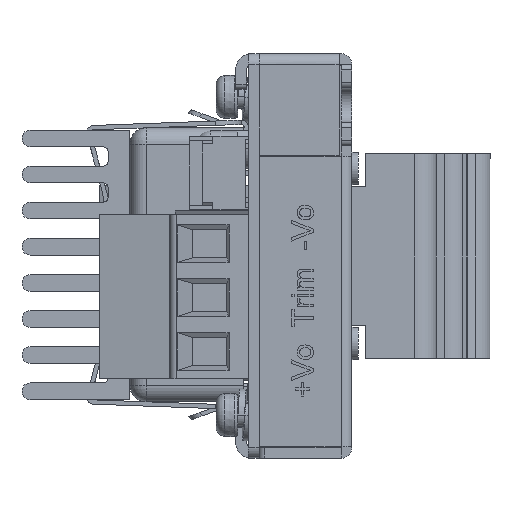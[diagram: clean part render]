
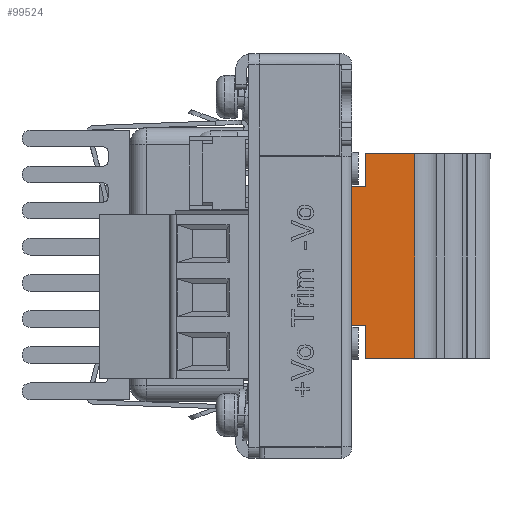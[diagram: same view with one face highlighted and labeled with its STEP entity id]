
A CAD part, left-side view. The second image highlights one B-rep face of the part: STEP entity #99524.
In plain terms, the highlighted planar face has unit normal (-1, 0, 0).
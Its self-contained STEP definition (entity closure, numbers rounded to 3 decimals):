
#5629 = DIRECTION ( 'NONE',  ( 0., 0., -1. ) ) ;
#6087 = VERTEX_POINT ( 'NONE', #14412 ) ;
#7372 = ORIENTED_EDGE ( 'NONE', *, *, #27137, .T. ) ;
#9182 = CARTESIAN_POINT ( 'NONE',  ( -25.603, -8.155, 107. ) ) ;
#10299 = CARTESIAN_POINT ( 'NONE',  ( -25.603, -6.855, 91.05 ) ) ;
#13301 = VECTOR ( 'NONE', #80635, 1000. ) ;
#14412 = CARTESIAN_POINT ( 'NONE',  ( -25.603, -8.155, 107. ) ) ;
#18478 = ORIENTED_EDGE ( 'NONE', *, *, #69444, .F. ) ;
#19432 = EDGE_CURVE ( 'NONE', #23772, #49206, #19797, .T. ) ;
#19797 = LINE ( 'NONE', #43949, #33618 ) ;
#23601 = DIRECTION ( 'NONE',  ( 0., -1., 0. ) ) ;
#23772 = VERTEX_POINT ( 'NONE', #35040 ) ;
#26375 = CARTESIAN_POINT ( 'NONE',  ( -25.603, -6.855, 103.95 ) ) ;
#27137 = EDGE_CURVE ( 'NONE', #71283, #23772, #46726, .T. ) ;
#28650 = LINE ( 'NONE', #31063, #82763 ) ;
#29485 = EDGE_CURVE ( 'NONE', #6087, #37944, #101714, .T. ) ;
#29839 = ORIENTED_EDGE ( 'NONE', *, *, #99896, .T. ) ;
#30795 = CARTESIAN_POINT ( 'NONE',  ( -25.603, -6.855, 103.95 ) ) ;
#31063 = CARTESIAN_POINT ( 'NONE',  ( -25.603, -6.855, 91.05 ) ) ;
#31787 = EDGE_LOOP ( 'NONE', ( #51011, #61964, #101478, #32740, #46818, #18478, #29839, #7372 ) ) ;
#32068 = DIRECTION ( 'NONE',  ( 0., -1., 0. ) ) ;
#32073 = CARTESIAN_POINT ( 'NONE',  ( -25.603, -12.655, 107. ) ) ;
#32740 = ORIENTED_EDGE ( 'NONE', *, *, #29485, .T. ) ;
#33618 = VECTOR ( 'NONE', #43432, 1000. ) ;
#35040 = CARTESIAN_POINT ( 'NONE',  ( -25.603, -8.155, 88. ) ) ;
#35111 = LINE ( 'NONE', #41785, #60257 ) ;
#35614 = EDGE_CURVE ( 'NONE', #6087, #72560, #61734, .T. ) ;
#37944 = VERTEX_POINT ( 'NONE', #57094 ) ;
#38795 = VERTEX_POINT ( 'NONE', #26375 ) ;
#41785 = CARTESIAN_POINT ( 'NONE',  ( -25.603, -12.655, 107. ) ) ;
#42649 = FACE_OUTER_BOUND ( 'NONE', #31787, .T. ) ;
#43432 = DIRECTION ( 'NONE',  ( 0., -1., 0. ) ) ;
#43949 = CARTESIAN_POINT ( 'NONE',  ( -25.603, -12.655, 88. ) ) ;
#45086 = VECTOR ( 'NONE', #5629, 1000. ) ;
#45248 = EDGE_CURVE ( 'NONE', #38795, #37944, #48789, .T. ) ;
#46726 = LINE ( 'NONE', #9182, #95693 ) ;
#46818 = ORIENTED_EDGE ( 'NONE', *, *, #45248, .F. ) ;
#48348 = EDGE_CURVE ( 'NONE', #72560, #49206, #35111, .T. ) ;
#48789 = LINE ( 'NONE', #94035, #95868 ) ;
#49206 = VERTEX_POINT ( 'NONE', #91284 ) ;
#51011 = ORIENTED_EDGE ( 'NONE', *, *, #19432, .T. ) ;
#54440 = DIRECTION ( 'NONE',  ( 0., 0., 1. ) ) ;
#55461 = DIRECTION ( 'NONE',  ( 0., 0., -1. ) ) ;
#57094 = CARTESIAN_POINT ( 'NONE',  ( -25.603, -8.155, 103.95 ) ) ;
#59109 = PLANE ( 'NONE',  #81047 ) ;
#60257 = VECTOR ( 'NONE', #88618, 1000. ) ;
#61639 = DIRECTION ( 'NONE',  ( 1., 0., 0. ) ) ;
#61734 = LINE ( 'NONE', #93121, #13301 ) ;
#61964 = ORIENTED_EDGE ( 'NONE', *, *, #48348, .F. ) ;
#68342 = LINE ( 'NONE', #30795, #69060 ) ;
#69060 = VECTOR ( 'NONE', #54440, 1000. ) ;
#69444 = EDGE_CURVE ( 'NONE', #94559, #38795, #68342, .T. ) ;
#69878 = DIRECTION ( 'NONE',  ( 0., -1., 0. ) ) ;
#71283 = VERTEX_POINT ( 'NONE', #72127 ) ;
#72127 = CARTESIAN_POINT ( 'NONE',  ( -25.603, -8.155, 91.05 ) ) ;
#72560 = VERTEX_POINT ( 'NONE', #32073 ) ;
#75978 = CARTESIAN_POINT ( 'NONE',  ( -25.603, -12.655, 107. ) ) ;
#76017 = CARTESIAN_POINT ( 'NONE',  ( -25.603, -8.155, 107. ) ) ;
#80635 = DIRECTION ( 'NONE',  ( 0., -1., 0. ) ) ;
#81047 = AXIS2_PLACEMENT_3D ( 'NONE', #75978, #61639, #69878 ) ;
#82763 = VECTOR ( 'NONE', #32068, 1000. ) ;
#88618 = DIRECTION ( 'NONE',  ( 0., 0., -1. ) ) ;
#91284 = CARTESIAN_POINT ( 'NONE',  ( -25.603, -12.655, 88. ) ) ;
#93121 = CARTESIAN_POINT ( 'NONE',  ( -25.603, -12.655, 107. ) ) ;
#94035 = CARTESIAN_POINT ( 'NONE',  ( -25.603, -6.855, 103.95 ) ) ;
#94559 = VERTEX_POINT ( 'NONE', #10299 ) ;
#95693 = VECTOR ( 'NONE', #55461, 1000. ) ;
#95868 = VECTOR ( 'NONE', #23601, 1000. ) ;
#99524 = ADVANCED_FACE ( 'NONE', ( #42649 ), #59109, .F. ) ;
#99896 = EDGE_CURVE ( 'NONE', #94559, #71283, #28650, .T. ) ;
#101478 = ORIENTED_EDGE ( 'NONE', *, *, #35614, .F. ) ;
#101714 = LINE ( 'NONE', #76017, #45086 ) ;
